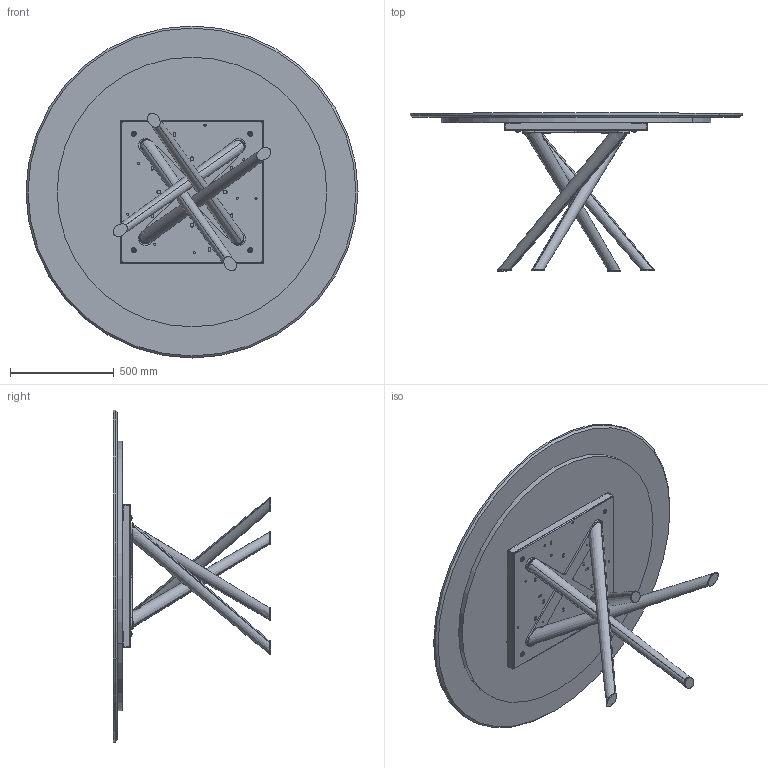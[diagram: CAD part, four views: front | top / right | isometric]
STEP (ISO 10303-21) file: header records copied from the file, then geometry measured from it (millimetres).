
FILE_DESCRIPTION (( 'STEP AP203' ), '1' );
FILE_NAME ('BA08M.STEP', '2024-08-08T06:37:16', ( '' ), ( '' ), 'SwSTEP 2.0', 'SolidWorks 2022', '' );
FILE_SCHEMA (( 'CONFIG_CONTROL_DESIGN' ));
Length unit declared in the file: millimetre
Products named in the file (14): TTAV0801 TELAIO UNIVERSALE TONDO-PIASTRINA; TRU0000X-00-SOTTO PIANO D.XXXXmm_TRU00001 d.130cm; TTAV0801-02-TELAIO UNIVERSALE TONDO-VASSOIO; rondella M8_8X24; M8xXXmm_M8x55mm; BAB000000-00-BALY BASE GREZZA; COLLO TELAIO UNIVERSALE TTAV0801 CON FERRAMENTA_MTG TOP LEGNO-MARMO-KING; Parte5^BAB000000-00-BALY BASE GREZZA; BA08M; M0X-00- D. piani marmo_D.1600; TTAV0801-02-TELAIO UNIVERSALE TONDO; BAB000000_02-00-basamento pali conificati; M0XMXX-00-Piani Rotondi in marmo_1600; BAB000000_01-00-Croce Superiore baly
Assembly tree (22 placements, depth 4):
  BA08M
    M0XMXX-00-Piani Rotondi in marmo_1600
      TRU0000X-00-SOTTO PIANO D.XXXXmm_TRU00001 d.130cm
      M0X-00- D. piani marmo_D.1600
    BAB000000-00-BALY BASE GREZZA
      BAB000000_01-00-Croce Superiore baly
      BAB000000_02-00-basamento pali conificati
      Parte5^BAB000000-00-BALY BASE GREZZA
    COLLO TELAIO UNIVERSALE TTAV0801 CON FERRAMENTA_MTG TOP LEGNO-MARMO-KING
      TTAV0801-02-TELAIO UNIVERSALE TONDO
        TTAV0801-02-TELAIO UNIVERSALE TONDO-VASSOIO
        TTAV0801 TELAIO UNIVERSALE TONDO-PIASTRINA  x4
      rondella M8_8X24  x4
      M8xXXmm_M8x55mm  x4
Bounding box: 1600 x 760 x 1600 mm (x, y, z)
Volume: 77819470 mm3; surface area: 9663657.2 mm2
Topology: 24 solids, 24 shells, 715 faces, 1831 edges, 1155 vertices
Faces by surface type: plane 312, cylinder 273, cone 74, torus 48, bspline 8
Entity records: 17463 total; most frequent: CARTESIAN_POINT 4200, DIRECTION 2457, ORIENTED_EDGE 2372, EDGE_CURVE 1186, AXIS2_PLACEMENT_3D 876, VERTEX_POINT 765, LINE 705, VECTOR 705
